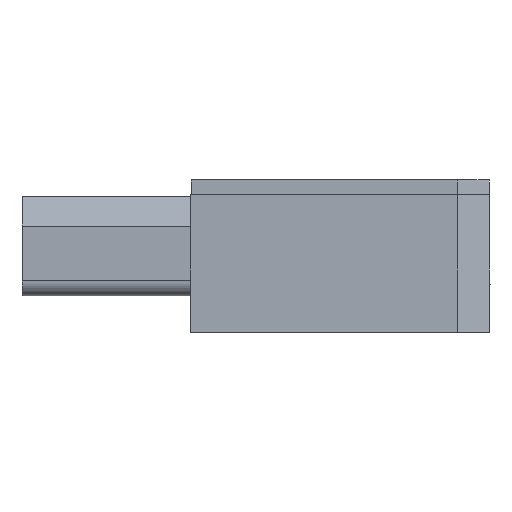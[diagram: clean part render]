
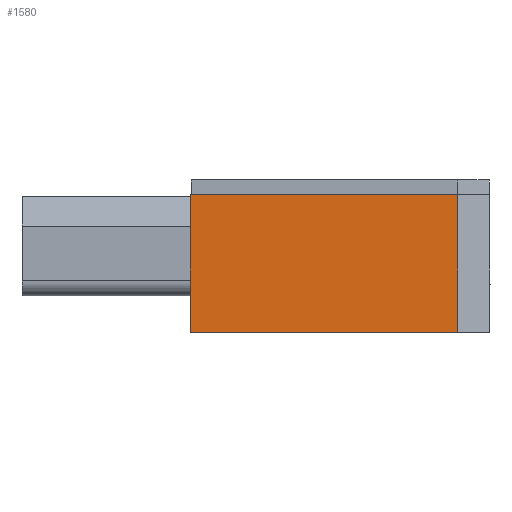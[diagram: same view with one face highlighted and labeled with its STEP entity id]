
A CAD part, front view. The second image highlights one B-rep face of the part: STEP entity #1580.
In plain terms, the highlighted planar face has unit normal (0, -1, 0).
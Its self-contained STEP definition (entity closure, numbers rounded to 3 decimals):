
#1580=ADVANCED_FACE('',(#3627),#3628,.T.);
#3627=FACE_OUTER_BOUND('',#6362,.T.);
#3628=PLANE('',#6363);
#6362=EDGE_LOOP('',(#11101,#11102,#11103,#11104));
#6363=AXIS2_PLACEMENT_3D('',#11105,#11106,#11107);
#11101=ORIENTED_EDGE('',*,*,#16688,.F.);
#11102=ORIENTED_EDGE('',*,*,#16642,.F.);
#11103=ORIENTED_EDGE('',*,*,#16048,.F.);
#11104=ORIENTED_EDGE('',*,*,#16689,.T.);
#11105=CARTESIAN_POINT('',(102.679,0.0,0.0));
#11106=DIRECTION('',(0.0,-1.0,0.0));
#11107=DIRECTION('',(0.0,0.0,-1.0));
#16048=EDGE_CURVE('',#19201,#19197,#19203,.T.);
#16642=EDGE_CURVE('',#19197,#20000,#20001,.T.);
#16688=EDGE_CURVE('',#20000,#20056,#20057,.T.);
#16689=EDGE_CURVE('',#19201,#20056,#20058,.T.);
#19197=VERTEX_POINT('',#23941);
#19201=VERTEX_POINT('',#23947);
#19203=LINE('',#23950,#23951);
#20000=VERTEX_POINT('',#25220);
#20001=LINE('',#25221,#25222);
#20056=VERTEX_POINT('',#25291);
#20057=LINE('',#25292,#25293);
#20058=LINE('',#25294,#25295);
#23941=CARTESIAN_POINT('',(0.0,0.0,55.0));
#23947=CARTESIAN_POINT('',(0.0,0.0,0.0));
#23950=CARTESIAN_POINT('',(0.0,0.0,0.0));
#23951=VECTOR('',#29219,1.0);
#25220=CARTESIAN_POINT('',(107.0,0.,55.0));
#25221=CARTESIAN_POINT('',(102.679,0.0,55.0));
#25222=VECTOR('',#29576,1.0);
#25291=CARTESIAN_POINT('',(107.0,0.0,0.));
#25292=CARTESIAN_POINT('',(107.0,0.0,0.));
#25293=VECTOR('',#29611,1.0);
#25294=CARTESIAN_POINT('',(102.679,0.0,0.0));
#25295=VECTOR('',#29612,1.0);
#29219=DIRECTION('',(0.0,0.0,1.0));
#29576=DIRECTION('',(1.0,0.0,0.));
#29611=DIRECTION('',(0.,0.0,-1.0));
#29612=DIRECTION('',(1.0,0.0,0.));
